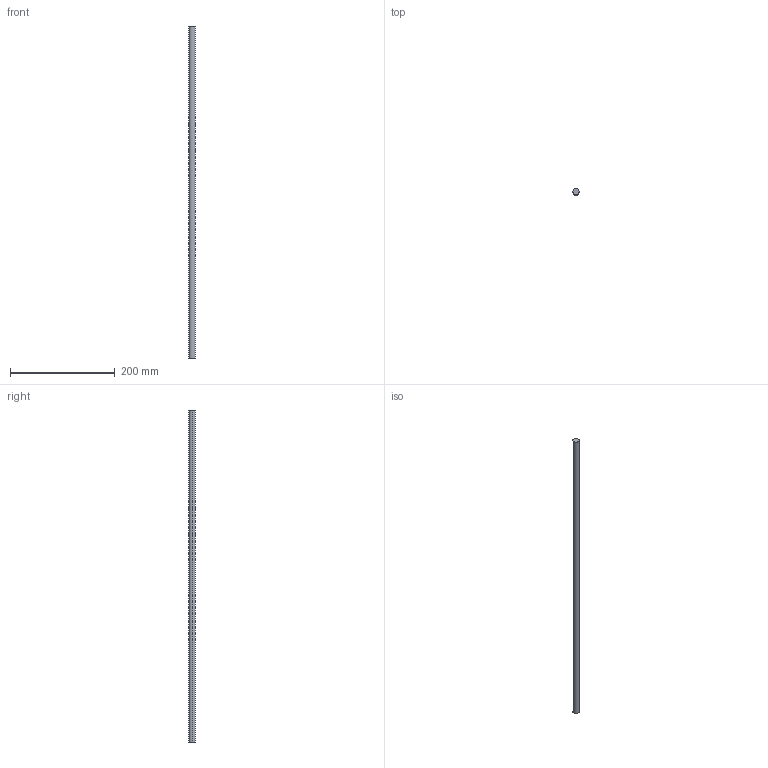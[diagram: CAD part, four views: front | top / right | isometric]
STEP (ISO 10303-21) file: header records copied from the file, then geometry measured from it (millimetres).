
FILE_DESCRIPTION (( 'STEP AP214' ), '1' );
FILE_NAME ('Innenschub H182 - S18_S19 - 750.step', '2010-09-07T14:56:03', ( 'grass' ), ( '' ), 'SwSTEP 2.0', 'SolidWorks 2010', '' );
FILE_SCHEMA (( 'AUTOMOTIVE_DESIGN' ));
Length unit declared in the file: millimetre
Products named in the file (1): Innenschub H182 - S18_S19 - 750
Bounding box: 12 x 12 x 633 mm (x, y, z)
Volume: 71590.6 mm3; surface area: 24089.7 mm2
Topology: 1 solids, 1 shells, 4 faces, 6 edges, 4 vertices
Faces by surface type: cylinder 2, plane 2
Entity records: 128 total; most frequent: DIRECTION 20, CARTESIAN_POINT 15, ORIENTED_EDGE 12, AXIS2_PLACEMENT_3D 9, EDGE_CURVE 6, VERTEX_POINT 4, EDGE_LOOP 4, CIRCLE 4
